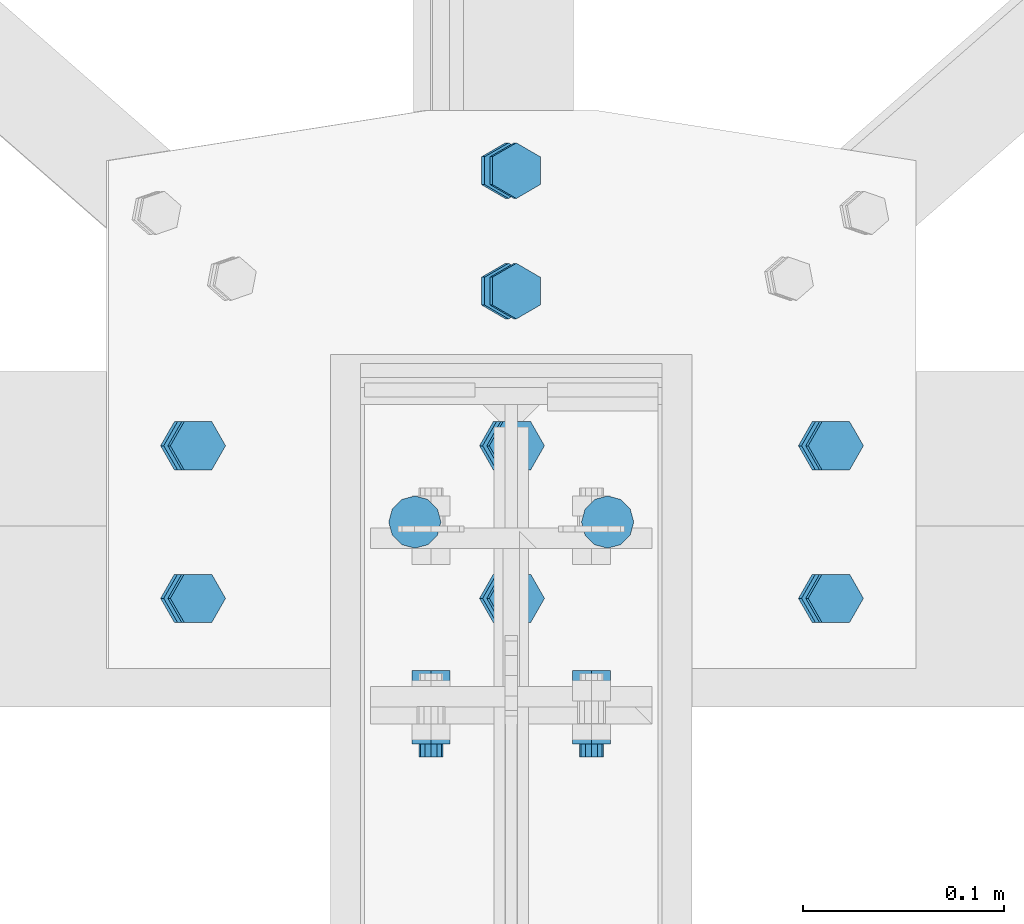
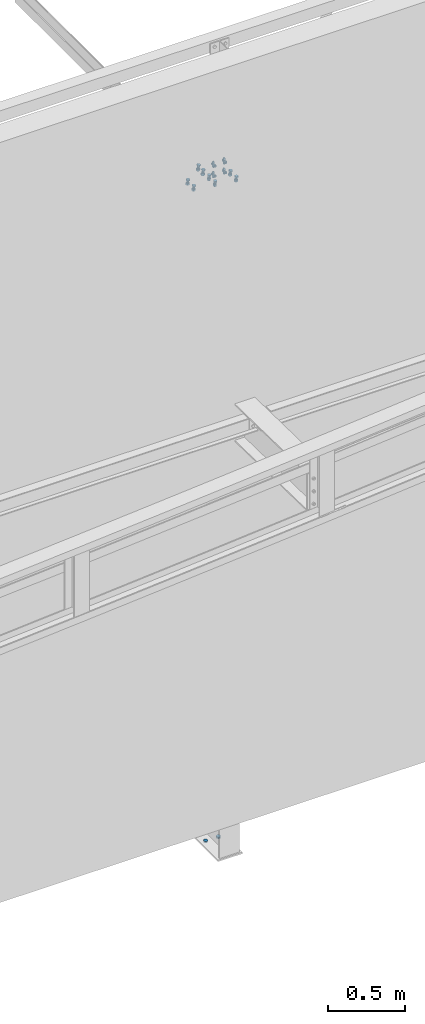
# One storey, part 107 of 3134: 4 mechanical fasteners, 4 elements without a shape of their own.
"""IFC2X3 building model written with IfcOpenShell, lengths in millimetres."""

from ifc_helpers import new_model, si_unit, frame, origin_with_axes, place, context, subcontext, project, spatial, faceted_brep, source, transform, mapped, material, type_object, element, aggregate, save


model = new_model("IFC2X3")

# Units and contexts
model_context = context("Model", 3, precision=1e-05, world=origin_with_axes())
body_context = subcontext(model_context, "Body", "Model", "MODEL_VIEW")
ifc_project = project(units=[si_unit("LENGTHUNIT", "METRE", prefix="MILLI"), si_unit("AREAUNIT", "SQUARE_METRE"), si_unit("VOLUMEUNIT", "CUBIC_METRE"), si_unit("MASSUNIT", "GRAM", prefix="KILO"), si_unit("TIMEUNIT", "SECOND"), si_unit("PLANEANGLEUNIT", "RADIAN"), si_unit("SOLIDANGLEUNIT", "STERADIAN"), si_unit("THERMODYNAMICTEMPERATUREUNIT", "DEGREE_CELSIUS"), si_unit("LUMINOUSINTENSITYUNIT", "LUMEN")], contexts=[model_context])

# Site, building, storey
site_placement = place(None, origin_with_axes())
site = spatial("IfcSite", under=ifc_project, at=site_placement, CompositionType="ELEMENT")
building_placement = place(site_placement, origin_with_axes())
building = spatial("IfcBuilding", under=site, at=building_placement, Name="Undefined", CompositionType="ELEMENT")
storey_placement = place(building_placement, origin_with_axes())
storey = spatial("IfcBuildingStorey", under=building, at=storey_placement, Name="Undefined", CompositionType="ELEMENT", Elevation=0.0)

# Assembly, mechanical fastener
assembly_1_placement = place(storey_placement, origin_with_axes())
assembly_1 = element("IfcElementAssembly", 1, at=assembly_1_placement, inside=storey, AssemblyPlace="NOTDEFINED", PredefinedType="RIGID_FRAME")
ifc_material = material(Name="8.8")
mechanical_fastener_type = type_object("IfcMechanicalFastenerType", Name="Bolt assembly")
shared_shape_1 = source(origin_with_axes(), body_context, "Body", "Brep", [
    faceted_brep([(13.856406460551, -16.9990000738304, 0.0), (6.92820323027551, -16.9990000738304, 12.0), (-6.92820323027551, -16.9990000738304, 12.0), (-13.856406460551, -16.9990000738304, 1.69692038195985e-15), (-6.92820323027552, -16.9990000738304, -12.0), (6.9282032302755, -16.9990000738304, -12.0), (6.9282032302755, -6.99900007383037, -12.0), (-6.92820323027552, -6.99900007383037, -12.0), (-13.856406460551, -6.99900007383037, 1.69692038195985e-15), (-6.92820323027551, -6.99900007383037, 12.0), (6.92820323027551, -6.99900007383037, 12.0), (13.856406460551, -6.99900007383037, 0.0), (8.0, -6.99900007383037, 0.0), (6.92820323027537, -6.99900007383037, 4.00000000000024), (3.99999999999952, -6.99900007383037, 6.92820323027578), (-8.29068785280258e-13, -6.99900007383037, 8.0), (-4.00000000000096, -6.99900007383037, 6.92820323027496), (-6.9282032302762, -6.99900007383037, 3.99999999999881), (-8.0, -6.99900007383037, -1.65813757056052e-12), (-6.92820323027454, -6.99900007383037, -4.00000000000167), (-3.99999999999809, -6.99900007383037, -6.92820323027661), (2.47832457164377e-12, -6.99900007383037, -8.0), (4.00000000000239, -6.99900007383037, -6.92820323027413), (6.92820323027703, -6.99900007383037, -3.99999999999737), (6.92820323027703, 33.0009999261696, -3.99999999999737), (4.00000000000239, 33.0009999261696, -6.92820323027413), (2.47832457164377e-12, 33.0009999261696, -8.0), (-3.99999999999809, 33.0009999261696, -6.92820323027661), (-6.92820323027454, 33.0009999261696, -4.00000000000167), (-8.0, 33.0009999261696, -1.65813757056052e-12), (-6.9282032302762, 33.0009999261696, 3.99999999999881), (-4.00000000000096, 33.0009999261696, 6.92820323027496), (-8.29068785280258e-13, 33.0009999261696, 8.0), (3.99999999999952, 33.0009999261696, 6.92820323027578), (6.92820323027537, 33.0009999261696, 4.00000000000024), (8.0, 33.0009999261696, 0.0), (13.856406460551, 14.9990000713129, 0.0), (6.92820323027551, 14.9990000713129, 12.0), (-6.92820323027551, 14.9990000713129, 12.0), (-13.856406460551, 14.9990000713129, 1.69692038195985e-15), (-6.92820323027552, 14.9990000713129, -12.0), (6.9282032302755, 14.9990000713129, -12.0), (6.9282032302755, 27.9990000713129, -12.0), (-6.92820323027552, 27.9990000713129, -12.0), (-13.856406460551, 27.9990000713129, 1.69692038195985e-15), (-6.92820323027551, 27.9990000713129, 12.0), (6.92820323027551, 27.9990000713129, 12.0), (13.856406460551, 27.9990000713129, 0.0)], [[[0, 1, 2, 3, 4, 5]], [[6, 7, 8, 9, 10, 11]], [[0, 11, 10, 1]], [[1, 10, 9, 2]], [[2, 9, 8, 3]], [[3, 8, 7, 4]], [[4, 7, 6, 5]], [[5, 6, 11, 0]], [[12, 13, 14, 15, 16, 17, 18, 19, 20, 21, 22, 23]], [[24, 25, 26, 27, 28, 29, 30, 31, 32, 33, 34, 35]], [[12, 35, 34, 13]], [[13, 34, 33, 14]], [[14, 33, 32, 15]], [[15, 32, 31, 16]], [[16, 31, 30, 17]], [[17, 30, 29, 18]], [[18, 29, 28, 19]], [[19, 28, 27, 20]], [[20, 27, 26, 21]], [[21, 26, 25, 22]], [[22, 25, 24, 23]], [[23, 24, 35, 12]], [[36, 37, 38, 39, 40, 41]], [[42, 43, 44, 45, 46, 47]], [[36, 47, 46, 37]], [[37, 46, 45, 38]], [[38, 45, 44, 39]], [[39, 44, 43, 40]], [[40, 43, 42, 41]], [[41, 42, 47, 36]]]),
    faceted_brep([(9.0, -3.46568413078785e-07, 0.0), (7.79422863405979, -3.46568413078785e-07, 4.50000000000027), (4.49999999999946, -3.46568413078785e-07, 7.79422863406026), (-9.3270238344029e-13, -3.46568413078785e-07, 9.0), (-4.50000000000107, -3.46568413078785e-07, 7.79422863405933), (-7.79422863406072, -3.46568413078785e-07, 4.49999999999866), (-9.0, -3.46568413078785e-07, -1.86540476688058e-12), (-7.79422863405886, -3.46568413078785e-07, -4.50000000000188), (-4.49999999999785, -3.46568413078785e-07, -7.79422863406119), (2.78811514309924e-12, -3.46568413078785e-07, -9.0), (4.50000000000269, -3.46568413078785e-07, -7.7942286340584), (7.79422863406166, -3.46568413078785e-07, -4.49999999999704), (7.79422863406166, 8.00000000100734, -4.49999999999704), (4.50000000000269, 8.00000000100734, -7.7942286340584), (2.78811514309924e-12, 8.00000000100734, -9.0), (-4.49999999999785, 8.00000000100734, -7.79422863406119), (-7.79422863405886, 8.00000000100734, -4.50000000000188), (-9.0, 8.00000000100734, -1.86540476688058e-12), (-7.79422863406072, 8.00000000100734, 4.49999999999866), (-4.50000000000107, 8.00000000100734, 7.79422863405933), (-9.3270238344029e-13, 8.00000000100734, 9.0), (4.49999999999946, 8.00000000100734, 7.79422863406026), (7.79422863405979, 8.00000000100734, 4.50000000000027), (9.0, 8.00000000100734, 0.0), (9.0, -6.89900007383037, 0.0), (7.79422863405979, -6.89900007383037, 4.50000000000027), (4.49999999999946, -6.89900007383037, 7.79422863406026), (-9.3270238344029e-13, -6.89900007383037, 9.0), (-4.50000000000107, -6.89900007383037, 7.79422863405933), (-7.79422863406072, -6.89900007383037, 4.49999999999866), (-9.0, -6.89900007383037, -1.86540476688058e-12), (-7.79422863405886, -6.89900007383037, -4.50000000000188), (-4.49999999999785, -6.89900007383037, -7.79422863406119), (2.78811514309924e-12, -6.89900007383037, -9.0), (4.50000000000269, -6.89900007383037, -7.7942286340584), (7.79422863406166, -6.89900007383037, -4.49999999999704), (7.79422863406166, 0.100999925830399, -4.49999999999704), (4.50000000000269, 0.100999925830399, -7.7942286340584), (2.78811514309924e-12, 0.100999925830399, -9.0), (-4.49999999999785, 0.100999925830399, -7.79422863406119), (-7.79422863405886, 0.100999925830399, -4.50000000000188), (-9.0, 0.100999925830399, -1.86540476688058e-12), (-7.79422863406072, 0.100999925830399, 4.49999999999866), (-4.50000000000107, 0.100999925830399, 7.79422863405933), (-9.3270238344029e-13, 0.100999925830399, 9.0), (4.49999999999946, 0.100999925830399, 7.79422863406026), (7.79422863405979, 0.100999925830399, 4.50000000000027), (9.0, 0.100999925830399, 0.0), (9.0, 7.89900007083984, 0.0), (7.79422863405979, 7.89900007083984, 4.50000000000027), (4.49999999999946, 7.89900007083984, 7.79422863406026), (-9.3270238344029e-13, 7.89900007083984, 9.0), (-4.50000000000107, 7.89900007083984, 7.79422863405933), (-7.79422863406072, 7.89900007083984, 4.49999999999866), (-9.0, 7.89900007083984, -1.86540476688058e-12), (-7.79422863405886, 7.89900007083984, -4.50000000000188), (-4.49999999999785, 7.89900007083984, -7.79422863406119), (2.78811514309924e-12, 7.89900007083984, -9.0), (4.50000000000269, 7.89900007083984, -7.7942286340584), (7.79422863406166, 7.89900007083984, -4.49999999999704), (7.79422863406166, 14.9990000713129, -4.49999999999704), (4.50000000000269, 14.9990000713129, -7.7942286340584), (2.78811514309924e-12, 14.9990000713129, -9.0), (-4.49999999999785, 14.9990000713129, -7.79422863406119), (-7.79422863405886, 14.9990000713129, -4.50000000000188), (-9.0, 14.9990000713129, -1.86540476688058e-12), (-7.79422863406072, 14.9990000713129, 4.49999999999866), (-4.50000000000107, 14.9990000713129, 7.79422863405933), (-9.3270238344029e-13, 14.9990000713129, 9.0), (4.49999999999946, 14.9990000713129, 7.79422863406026), (7.79422863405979, 14.9990000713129, 4.50000000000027), (9.0, 14.9990000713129, 0.0)], [[[0, 1, 2, 3, 4, 5, 6, 7, 8, 9, 10, 11]], [[12, 13, 14, 15, 16, 17, 18, 19, 20, 21, 22, 23]], [[0, 23, 22, 1]], [[1, 22, 21, 2]], [[2, 21, 20, 3]], [[3, 20, 19, 4]], [[4, 19, 18, 5]], [[5, 18, 17, 6]], [[6, 17, 16, 7]], [[7, 16, 15, 8]], [[8, 15, 14, 9]], [[9, 14, 13, 10]], [[10, 13, 12, 11]], [[11, 12, 23, 0]], [[24, 25, 26, 27, 28, 29, 30, 31, 32, 33, 34, 35]], [[36, 37, 38, 39, 40, 41, 42, 43, 44, 45, 46, 47]], [[24, 47, 46, 25]], [[25, 46, 45, 26]], [[26, 45, 44, 27]], [[27, 44, 43, 28]], [[28, 43, 42, 29]], [[29, 42, 41, 30]], [[30, 41, 40, 31]], [[31, 40, 39, 32]], [[32, 39, 38, 33]], [[33, 38, 37, 34]], [[34, 37, 36, 35]], [[35, 36, 47, 24]], [[48, 49, 50, 51, 52, 53, 54, 55, 56, 57, 58, 59]], [[60, 61, 62, 63, 64, 65, 66, 67, 68, 69, 70, 71]], [[48, 71, 70, 49]], [[49, 70, 69, 50]], [[50, 69, 68, 51]], [[51, 68, 67, 52]], [[52, 67, 66, 53]], [[53, 66, 65, 54]], [[54, 65, 64, 55]], [[55, 64, 63, 56]], [[56, 63, 62, 57]], [[57, 62, 61, 58]], [[58, 61, 60, 59]], [[59, 60, 71, 48]]]),
])
mechanical_fastener_1_placement = place(assembly_1_placement, frame((38362.9827951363, 115.000000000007, 4806.73385378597), z_axis=(-0.992623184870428, 0.0, 0.121240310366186), x_axis=(0.0, 1.0, 0.0)))
mechanical_fastener_1 = element("IfcMechanicalFastener", 2, at=mechanical_fastener_1_placement, type_object=mechanical_fastener_type, material=ifc_material, Name="Bolt assembly", NominalDiameter=16.0, NominalLength=40.0, context=body_context, shape_type="MappedRepresentation", body=[
    mapped(shared_shape_1, transform((0.0, 0.0, 0.0))),
    mapped(shared_shape_1, transform((59.9999999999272, 0.0, 5.40239852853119e-10))),
])
aggregate(assembly_1, [mechanical_fastener_1])

assembly_2_placement = place(storey_placement, origin_with_axes())
assembly_2 = element("IfcElementAssembly", 3, at=assembly_2_placement, inside=storey, Name="300", AssemblyPlace="NOTDEFINED", PredefinedType="RIGID_FRAME")
shared_shape_2 = source(origin_with_axes(), body_context, "Body", "Brep", [
    faceted_brep([(13.856406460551, -19.199990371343, 0.0), (6.92820323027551, -19.199990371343, 12.0), (-6.92820323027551, -19.199990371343, 12.0), (-13.856406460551, -19.199990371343, 1.69692038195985e-15), (-6.92820323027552, -19.199990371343, -12.0), (6.9282032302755, -19.199990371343, -12.0), (6.9282032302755, -9.19999037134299, -12.0), (-6.92820323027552, -9.19999037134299, -12.0), (-13.856406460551, -9.19999037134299, 1.69692038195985e-15), (-6.92820323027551, -9.19999037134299, 12.0), (6.92820323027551, -9.19999037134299, 12.0), (13.856406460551, -9.19999037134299, 0.0), (8.0, -9.19999037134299, 0.0), (6.92820323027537, -9.19999037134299, 4.00000000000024), (3.99999999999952, -9.19999037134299, 6.92820323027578), (-8.29068785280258e-13, -9.19999037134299, 8.0), (-4.00000000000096, -9.19999037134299, 6.92820323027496), (-6.9282032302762, -9.19999037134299, 3.99999999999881), (-8.0, -9.19999037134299, -1.65813757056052e-12), (-6.92820323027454, -9.19999037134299, -4.00000000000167), (-3.99999999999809, -9.19999037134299, -6.92820323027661), (2.47832457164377e-12, -9.19999037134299, -8.0), (4.00000000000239, -9.19999037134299, -6.92820323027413), (6.92820323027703, -9.19999037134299, -3.99999999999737), (6.92820323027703, 25.800009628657, -3.99999999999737), (4.00000000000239, 25.800009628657, -6.92820323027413), (2.47832457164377e-12, 25.800009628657, -8.0), (-3.99999999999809, 25.800009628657, -6.92820323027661), (-6.92820323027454, 25.800009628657, -4.00000000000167), (-8.0, 25.800009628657, -1.65813757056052e-12), (-6.9282032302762, 25.800009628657, 3.99999999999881), (-4.00000000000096, 25.800009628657, 6.92820323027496), (-8.29068785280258e-13, 25.800009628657, 8.0), (3.99999999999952, 25.800009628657, 6.92820323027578), (6.92820323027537, 25.800009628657, 4.00000000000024), (8.0, 25.800009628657, 0.0), (13.856406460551, 8.00000637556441, 0.0), (6.92820323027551, 8.00000637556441, 12.0), (-6.92820323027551, 8.00000637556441, 12.0), (-13.856406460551, 8.00000637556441, 1.69692038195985e-15), (-6.92820323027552, 8.00000637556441, -12.0), (6.9282032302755, 8.00000637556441, -12.0), (6.9282032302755, 21.0000063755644, -12.0), (-6.92820323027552, 21.0000063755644, -12.0), (-13.856406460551, 21.0000063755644, 1.69692038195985e-15), (-6.92820323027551, 21.0000063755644, 12.0), (6.92820323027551, 21.0000063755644, 12.0), (13.856406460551, 21.0000063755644, 0.0)], [[[0, 1, 2, 3, 4, 5]], [[6, 7, 8, 9, 10, 11]], [[0, 11, 10, 1]], [[1, 10, 9, 2]], [[2, 9, 8, 3]], [[3, 8, 7, 4]], [[4, 7, 6, 5]], [[5, 6, 11, 0]], [[12, 13, 14, 15, 16, 17, 18, 19, 20, 21, 22, 23]], [[24, 25, 26, 27, 28, 29, 30, 31, 32, 33, 34, 35]], [[12, 35, 34, 13]], [[13, 34, 33, 14]], [[14, 33, 32, 15]], [[15, 32, 31, 16]], [[16, 31, 30, 17]], [[17, 30, 29, 18]], [[18, 29, 28, 19]], [[19, 28, 27, 20]], [[20, 27, 26, 21]], [[21, 26, 25, 22]], [[22, 25, 24, 23]], [[23, 24, 35, 12]], [[36, 37, 38, 39, 40, 41]], [[42, 43, 44, 45, 46, 47]], [[36, 47, 46, 37]], [[37, 46, 45, 38]], [[38, 45, 44, 39]], [[39, 44, 43, 40]], [[40, 43, 42, 41]], [[41, 42, 47, 36]]]),
    faceted_brep([(9.0, -0.1, 0.0), (7.79422863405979, -0.1, 4.50000000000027), (4.49999999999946, -0.1, 7.79422863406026), (-9.3270238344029e-13, -0.1, 9.0), (-4.50000000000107, -0.1, 7.79422863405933), (-7.79422863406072, -0.1, 4.49999999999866), (-9.0, -0.1, -1.86540476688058e-12), (-7.79422863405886, -0.1, -4.50000000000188), (-4.49999999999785, -0.1, -7.79422863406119), (2.78811514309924e-12, -0.1, -9.0), (4.50000000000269, -0.1, -7.7942286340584), (7.79422863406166, -0.1, -4.49999999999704), (7.79422863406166, 8.00000000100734, -4.49999999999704), (4.50000000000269, 8.00000000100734, -7.7942286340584), (2.78811514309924e-12, 8.00000000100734, -9.0), (-4.49999999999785, 8.00000000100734, -7.79422863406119), (-7.79422863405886, 8.00000000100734, -4.50000000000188), (-9.0, 8.00000000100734, -1.86540476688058e-12), (-7.79422863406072, 8.00000000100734, 4.49999999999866), (-4.50000000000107, 8.00000000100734, 7.79422863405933), (-9.3270238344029e-13, 8.00000000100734, 9.0), (4.49999999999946, 8.00000000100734, 7.79422863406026), (7.79422863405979, 8.00000000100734, 4.50000000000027), (9.0, 8.00000000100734, 0.0), (9.0, -9.09999037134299, 0.0), (7.79422863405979, -9.09999037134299, 4.50000000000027), (4.49999999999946, -9.09999037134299, 7.79422863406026), (-9.3270238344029e-13, -9.09999037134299, 9.0), (-4.50000000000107, -9.09999037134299, 7.79422863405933), (-7.79422863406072, -9.09999037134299, 4.49999999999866), (-9.0, -9.09999037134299, -1.86540476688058e-12), (-7.79422863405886, -9.09999037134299, -4.50000000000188), (-4.49999999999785, -9.09999037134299, -7.79422863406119), (2.78811514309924e-12, -9.09999037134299, -9.0), (4.50000000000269, -9.09999037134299, -7.7942286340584), (7.79422863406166, -9.09999037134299, -4.49999999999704), (7.79422863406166, 0.100000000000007, -4.49999999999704), (4.50000000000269, 0.100000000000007, -7.7942286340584), (2.78811514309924e-12, 0.100000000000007, -9.0), (-4.49999999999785, 0.100000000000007, -7.79422863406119), (-7.79422863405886, 0.100000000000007, -4.50000000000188), (-9.0, 0.100000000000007, -1.86540476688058e-12), (-7.79422863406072, 0.100000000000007, 4.49999999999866), (-4.50000000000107, 0.100000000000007, 7.79422863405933), (-9.3270238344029e-13, 0.100000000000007, 9.0), (4.49999999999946, 0.100000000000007, 7.79422863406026), (7.79422863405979, 0.100000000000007, 4.50000000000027), (9.0, 0.100000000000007, 0.0)], [[[0, 1, 2, 3, 4, 5, 6, 7, 8, 9, 10, 11]], [[12, 13, 14, 15, 16, 17, 18, 19, 20, 21, 22, 23]], [[0, 23, 22, 1]], [[1, 22, 21, 2]], [[2, 21, 20, 3]], [[3, 20, 19, 4]], [[4, 19, 18, 5]], [[5, 18, 17, 6]], [[6, 17, 16, 7]], [[7, 16, 15, 8]], [[8, 15, 14, 9]], [[9, 14, 13, 10]], [[10, 13, 12, 11]], [[11, 12, 23, 0]], [[24, 25, 26, 27, 28, 29, 30, 31, 32, 33, 34, 35]], [[36, 37, 38, 39, 40, 41, 42, 43, 44, 45, 46, 47]], [[24, 47, 46, 25]], [[25, 46, 45, 26]], [[26, 45, 44, 27]], [[27, 44, 43, 28]], [[28, 43, 42, 29]], [[29, 42, 41, 30]], [[30, 41, 40, 31]], [[31, 40, 39, 32]], [[32, 39, 38, 33]], [[33, 38, 37, 34]], [[34, 37, 36, 35]], [[35, 36, 47, 24]]]),
])
mechanical_fastener_2_placement = place(assembly_2_placement, frame((38521.8025059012, 0.0, 4787.33541359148), z_axis=(0.0, -1.0, 0.0), x_axis=(-0.992623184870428, 0.0, 0.121240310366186)))
mechanical_fastener_2 = element("IfcMechanicalFastener", 4, at=mechanical_fastener_2_placement, type_object=mechanical_fastener_type, material=ifc_material, Name="Bolt assembly", NominalDiameter=16.0, NominalLength=35.0, context=body_context, shape_type="MappedRepresentation", body=[
    mapped(shared_shape_2, transform((0.0, 0.0, -38.0))),
    mapped(shared_shape_2, transform((159.99999999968, -2.71938915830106e-10, -38.0))),
    mapped(shared_shape_2, transform((320.000000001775, 1.33877620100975e-09, -38.0))),
    mapped(shared_shape_2, transform((0.0, 0.0, 38.0))),
    mapped(shared_shape_2, transform((159.99999999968, -2.71938915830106e-10, 38.0))),
    mapped(shared_shape_2, transform((320.000000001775, 1.33877620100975e-09, 38.0))),
])
aggregate(assembly_2, [mechanical_fastener_2])

assembly_3_placement = place(storey_placement, origin_with_axes())
assembly_3 = element("IfcElementAssembly", 5, at=assembly_3_placement, inside=storey, AssemblyPlace="NOTDEFINED", PredefinedType="RIGID_FRAME")
shared_shape_3 = source(origin_with_axes(), body_context, "Body", "Brep", [
    faceted_brep([(10.9696551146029, -18.0, 0.0), (5.48482755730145, -18.0, 9.5), (-5.48482755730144, -18.0, 9.5), (-10.9696551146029, -18.0, 1.34339530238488e-15), (-5.48482755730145, -18.0, -9.5), (5.48482755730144, -18.0, -9.50000000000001), (5.48482755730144, -10.0, -9.50000000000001), (-5.48482755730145, -10.0, -9.5), (-10.9696551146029, -10.0, 1.34339530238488e-15), (-5.48482755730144, -10.0, 9.5), (5.48482755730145, -10.0, 9.5), (10.9696551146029, -10.0, 0.0), (6.0, -10.0, 0.0), (5.19615242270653, -10.0, 3.00000000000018), (2.99999999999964, -10.0, 5.19615242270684), (-6.21801588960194e-13, -10.0, 6.0), (-3.00000000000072, -10.0, 5.19615242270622), (-5.19615242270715, -10.0, 2.9999999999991), (-6.0, -10.0, -1.24360317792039e-12), (-5.19615242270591, -10.0, -3.00000000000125), (-2.99999999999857, -10.0, -5.19615242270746), (1.85874342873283e-12, -10.0, -6.0), (3.00000000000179, -10.0, -5.1961524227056), (5.19615242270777, -10.0, -2.99999999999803), (5.19615242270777, 24.9999999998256, -2.99999999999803), (3.00000000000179, 24.9999999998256, -5.1961524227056), (1.85874342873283e-12, 24.9999999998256, -6.0), (-2.99999999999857, 24.9999999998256, -5.19615242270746), (-5.19615242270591, 24.9999999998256, -3.00000000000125), (-6.0, 24.9999999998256, -1.24360317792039e-12), (-5.19615242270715, 24.9999999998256, 2.9999999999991), (-3.00000000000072, 24.9999999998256, 5.19615242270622), (-6.21801588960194e-13, 24.9999999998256, 6.0), (2.99999999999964, 24.9999999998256, 5.19615242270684), (5.19615242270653, 24.9999999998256, 3.00000000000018), (6.0, 24.9999999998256, 0.0), (10.9696551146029, 8.5, 0.0), (5.48482755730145, 8.5, 9.5), (-5.48482755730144, 8.5, 9.5), (-10.9696551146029, 8.5, 1.34339530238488e-15), (-5.48482755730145, 8.5, -9.5), (5.48482755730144, 8.5, -9.50000000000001), (5.48482755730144, 18.5, -9.50000000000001), (-5.48482755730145, 18.5, -9.5), (-10.9696551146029, 18.5, 1.34339530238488e-15), (-5.48482755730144, 18.5, 9.5), (5.48482755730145, 18.5, 9.5), (10.9696551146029, 18.5, 0.0)], [[[0, 1, 2, 3, 4, 5]], [[6, 7, 8, 9, 10, 11]], [[0, 11, 10, 1]], [[1, 10, 9, 2]], [[2, 9, 8, 3]], [[3, 8, 7, 4]], [[4, 7, 6, 5]], [[5, 6, 11, 0]], [[12, 13, 14, 15, 16, 17, 18, 19, 20, 21, 22, 23]], [[24, 25, 26, 27, 28, 29, 30, 31, 32, 33, 34, 35]], [[12, 35, 34, 13]], [[13, 34, 33, 14]], [[14, 33, 32, 15]], [[15, 32, 31, 16]], [[16, 31, 30, 17]], [[17, 30, 29, 18]], [[18, 29, 28, 19]], [[19, 28, 27, 20]], [[20, 27, 26, 21]], [[21, 26, 25, 22]], [[22, 25, 24, 23]], [[23, 24, 35, 12]], [[36, 37, 38, 39, 40, 41]], [[42, 43, 44, 45, 46, 47]], [[36, 47, 46, 37]], [[37, 46, 45, 38]], [[38, 45, 44, 39]], [[39, 44, 43, 40]], [[40, 43, 42, 41]], [[41, 42, 47, 36]]]),
    faceted_brep([(7.0, -0.1, 0.0), (6.06217782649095, -0.1, 3.50000000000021), (3.49999999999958, -0.1, 6.06217782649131), (-7.25435187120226e-13, -0.1, 7.0), (-3.50000000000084, -0.1, 6.06217782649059), (-6.06217782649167, -0.1, 3.49999999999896), (-7.0, -0.1, -1.45087037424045e-12), (-6.06217782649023, -0.1, -3.50000000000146), (-3.49999999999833, -0.1, -6.06217782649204), (2.1685340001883e-12, -0.1, -7.0), (3.50000000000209, -0.1, -6.06217782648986), (6.0621778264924, -0.1, -3.4999999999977), (6.0621778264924, 8.5, -3.4999999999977), (3.50000000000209, 8.5, -6.06217782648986), (2.1685340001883e-12, 8.5, -7.0), (-3.49999999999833, 8.5, -6.06217782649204), (-6.06217782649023, 8.5, -3.50000000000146), (-7.0, 8.5, -1.45087037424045e-12), (-6.06217782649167, 8.5, 3.49999999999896), (-3.50000000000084, 8.5, 6.06217782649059), (-7.25435187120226e-13, 8.5, 7.0), (3.49999999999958, 8.5, 6.06217782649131), (6.06217782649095, 8.5, 3.50000000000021), (7.0, 8.5, 0.0), (26.0, -9.9, 0.0), (25.4671567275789, -9.9, 2.6787840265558), (23.9497474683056, -9.9, 4.94974746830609), (21.6787840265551, -9.9, 6.46715672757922), (-19.0000000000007, -9.9, 7.0), (-22.5000000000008, -9.9, 6.06217782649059), (-25.0621778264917, -9.9, 3.49999999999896), (-26.0, -9.9, -1.45087037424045e-12), (-25.0621778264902, -9.9, -3.50000000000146), (-22.4999999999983, -9.9, -6.06217782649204), (-18.9999999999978, -9.9, -7.0), (19.0000000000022, -9.9, -7.0), (22.5000000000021, -9.9, -6.06217782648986), (25.0621778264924, -9.9, -3.4999999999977), (26.0, 0.0999999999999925, 0.0), (25.0621778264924, 0.0999999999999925, -3.4999999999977), (22.5000000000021, 0.0999999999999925, -6.06217782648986), (19.0000000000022, 0.0999999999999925, -7.0), (-18.9999999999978, 0.0999999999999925, -7.0), (-22.4999999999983, 0.0999999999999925, -6.06217782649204), (-25.0621778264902, 0.0999999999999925, -3.50000000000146), (-26.0, 0.0999999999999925, -1.45087037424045e-12), (-25.0621778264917, 0.0999999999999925, 3.49999999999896), (-22.5000000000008, 0.0999999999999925, 6.06217782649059), (-19.0000000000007, 0.0999999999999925, 7.0), (21.6787840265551, 0.0999999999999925, 6.46715672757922), (23.9497474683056, 0.0999999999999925, 4.94974746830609), (25.4671567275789, 0.0999999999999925, 2.6787840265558)], [[[0, 1, 2, 3, 4, 5, 6, 7, 8, 9, 10, 11]], [[12, 13, 14, 15, 16, 17, 18, 19, 20, 21, 22, 23]], [[0, 23, 22, 1]], [[1, 22, 21, 2]], [[2, 21, 20, 3]], [[3, 20, 19, 4]], [[4, 19, 18, 5]], [[5, 18, 17, 6]], [[6, 17, 16, 7]], [[7, 16, 15, 8]], [[8, 15, 14, 9]], [[9, 14, 13, 10]], [[10, 13, 12, 11]], [[11, 12, 23, 0]], [[24, 25, 26, 27, 28, 29, 30, 31, 32, 33, 34, 35, 36, 37]], [[38, 39, 40, 41, 42, 43, 44, 45, 46, 47, 48, 49, 50, 51]], [[24, 38, 51, 25]], [[25, 51, 50, 26]], [[26, 50, 49, 27]], [[27, 49, 48, 28]], [[28, 48, 47, 29]], [[29, 47, 46, 30]], [[30, 46, 45, 31]], [[31, 45, 44, 32]], [[32, 44, 43, 33]], [[33, 43, 42, 34]], [[34, 42, 41, 35]], [[35, 41, 40, 36]], [[36, 40, 39, 37]], [[37, 39, 38, 24]]]),
])
mechanical_fastener_3_placement = place(assembly_3_placement, frame((38362.4999999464, -92.0, 4996.39642111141), z_axis=(-1.0, 0.0, 0.0), x_axis=(0.0, 0.0, -1.0)))
mechanical_fastener_3 = element("IfcMechanicalFastener", 6, at=mechanical_fastener_3_placement, type_object=mechanical_fastener_type, material=ifc_material, Name="Bolt assembly", NominalDiameter=12.0, NominalLength=35.0, context=body_context, shape_type="MappedRepresentation", body=[
    mapped(shared_shape_3, transform((0.0, 0.0, -40.0))),
    mapped(shared_shape_3, transform((80.0, 0.0, -40.0))),
    mapped(shared_shape_3, transform((0.0, 0.0, 40.0))),
    mapped(shared_shape_3, transform((80.0, 0.0, 40.0))),
])
aggregate(assembly_3, [mechanical_fastener_3])

assembly_4_placement = place(storey_placement, origin_with_axes())
assembly_4 = element("IfcElementAssembly", 7, at=assembly_4_placement, inside=storey, Name="300", AssemblyPlace="NOTDEFINED", PredefinedType="RIGID_FRAME")
shared_shape_4 = source(origin_with_axes(), body_context, "Body", "Brep", [
    faceted_brep([(13.0, -25.000000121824, 0.0), (11.2583302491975, -25.000000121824, 6.50000000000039), (6.49999999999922, -25.000000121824, 11.2583302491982), (-1.34723677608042e-12, -25.000000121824, 13.0), (-6.50000000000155, -25.000000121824, 11.2583302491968), (-11.2583302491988, -25.000000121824, 6.49999999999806), (-13.0, -25.000000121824, -2.69447355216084e-12), (-11.2583302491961, -25.000000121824, -6.50000000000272), (-6.4999999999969, -25.000000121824, -11.2583302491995), (4.02727742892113e-12, -25.000000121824, -13.0), (6.50000000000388, -25.000000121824, -11.2583302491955), (11.2583302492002, -25.000000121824, -6.49999999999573), (11.2583302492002, -12.900000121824, -6.49999999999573), (6.50000000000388, -12.900000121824, -11.2583302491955), (4.02727742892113e-12, -12.900000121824, -13.0), (-6.4999999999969, -12.900000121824, -11.2583302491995), (-11.2583302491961, -12.900000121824, -6.50000000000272), (-13.0, -12.900000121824, -2.69447355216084e-12), (-11.2583302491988, -12.900000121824, 6.49999999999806), (-6.50000000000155, -12.900000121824, 11.2583302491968), (-1.34723677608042e-12, -12.900000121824, 13.0), (6.49999999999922, -12.900000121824, 11.2583302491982), (11.2583302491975, -12.900000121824, 6.50000000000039), (13.0, -12.900000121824, 0.0)], [[[0, 1, 2, 3, 4, 5, 6, 7, 8, 9, 10, 11]], [[12, 13, 14, 15, 16, 17, 18, 19, 20, 21, 22, 23]], [[0, 23, 22, 1]], [[1, 22, 21, 2]], [[2, 21, 20, 3]], [[3, 20, 19, 4]], [[4, 19, 18, 5]], [[5, 18, 17, 6]], [[6, 17, 16, 7]], [[7, 16, 15, 8]], [[8, 15, 14, 9]], [[9, 14, 13, 10]], [[10, 13, 12, 11]], [[11, 12, 23, 0]]]),
])
mechanical_fastener_4_placement = place(assembly_4_placement, frame((38362.5000000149, -301.499999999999, -374.999999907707), z_axis=(1.0, 0.0, 0.0), x_axis=(0.0, 1.0, 0.0)))
mechanical_fastener_4 = element("IfcMechanicalFastener", 8, at=mechanical_fastener_4_placement, type_object=mechanical_fastener_type, material=ifc_material, Name="Bolt assembly", NominalDiameter=24.0, NominalLength=12.0, context=body_context, shape_type="MappedRepresentation", body=[
    mapped(shared_shape_4, transform((301.5, 0.0, -48.0))),
    mapped(shared_shape_4, transform((301.5, 0.0, 48.0))),
])
aggregate(assembly_4, [mechanical_fastener_4])

save(model, "model.ifc")
